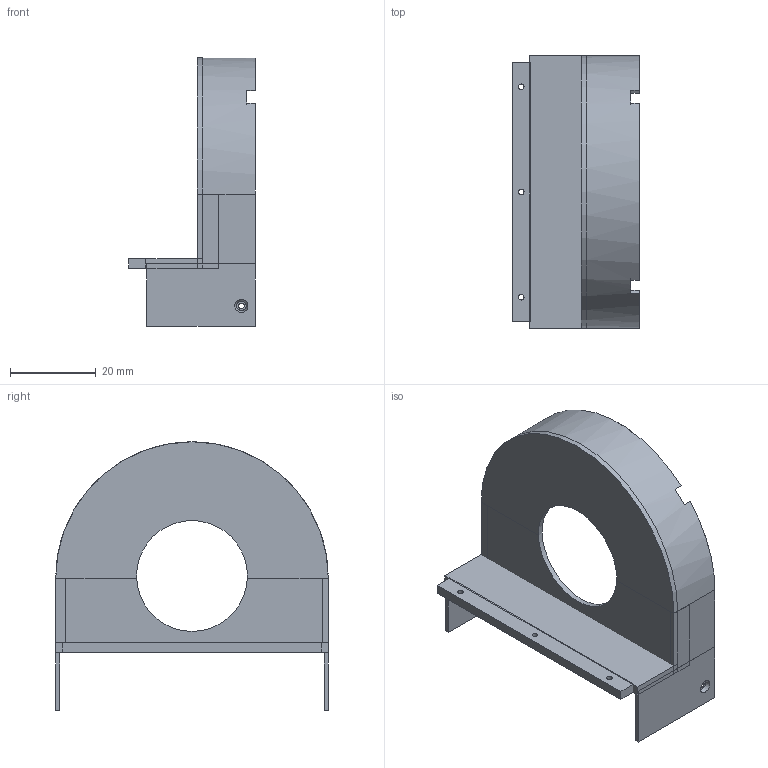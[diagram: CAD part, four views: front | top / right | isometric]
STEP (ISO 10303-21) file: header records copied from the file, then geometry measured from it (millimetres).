
FILE_DESCRIPTION(('FreeCAD Model'),'2;1');
FILE_NAME('/Users/alberto/Documents/Dtto Modular Robot/Dtto v2.0.1 STEP/003-2.step','2017-06-15T14:47:53',('Author'),(''), 'Open CASCADE STEP processor 6.8','FreeCAD','Unknown');
FILE_SCHEMA(('AUTOMOTIVE_DESIGN_CC2 { 1 2 10303 214 -1 1 5 4 }'));
Length unit declared in the file: millimetre
Products named in the file (11): ASSEMBLY; Cut217; Cubo470; Cut146; Cubo472; Cubo471; Cut212; Cut057; Cut053; Cubo295; Cubo294
Assembly tree (10 placements, depth 2):
  ASSEMBLY
    Cut217
    Cubo470
    Cut146
    Cubo472
    Cubo471
    Cut212
    Cut057
    Cut053
    Cubo295
    Cubo294
Bounding box: 29.5 x 63.5 x 62.5 mm (x, y, z)
Volume: 7979.1 mm3; surface area: 13328.2 mm2
Topology: 10 solids, 10 shells, 110 faces, 242 edges, 158 vertices
Faces by surface type: plane 86, cylinder 19, cone 5
Full cylindrical faces by diameter (mm): 1.3 x8, 25.8 x1
Entity records: 6496 total; most frequent: CARTESIAN_POINT 1177, DIRECTION 983, LINE 542, VECTOR 542, ORIENTED_EDGE 484, PCURVE 484, DEFINITIONAL_REPRESENTATION 484, EDGE_CURVE 242
